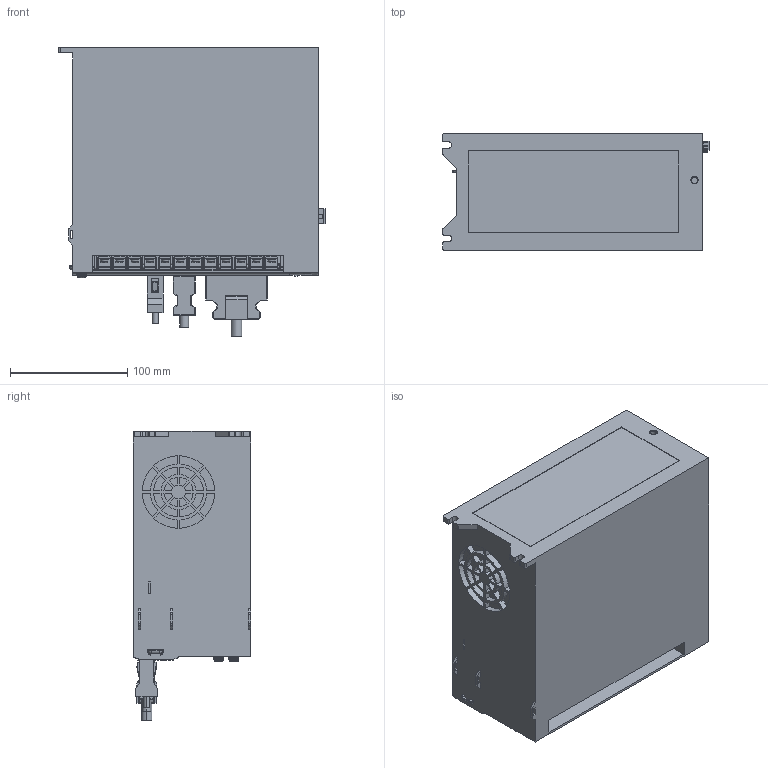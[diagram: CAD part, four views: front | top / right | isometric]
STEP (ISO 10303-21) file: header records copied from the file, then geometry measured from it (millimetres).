
FILE_DESCRIPTION (( 'STEP AP214' ), '1' );
FILE_NAME ('3KW-AP.STEP', '2022-11-02T06:07:52', ( '' ), ( '' ), 'SwSTEP 2.0', 'SolidWorks 2014', '' );
FILE_SCHEMA (( 'AUTOMOTIVE_DESIGN' ));
Length unit declared in the file: millimetre
Products named in the file (21): 3KW-AP; CON12-13-159X25P8-H_1; 控制回路端子插座-SCI-SOSCN-君昊; 3KWP; TB1300-00V-12P-C(1)_1; M4-H8; 橈勤硉晤鎢ん脣芛; STOM2X04P; STOG2X4P; jxgb1; MUF-PK10K-X
Assembly tree (11 placements, depth 3):
  3KW-AP
    3KWP
    M4-H8  x2
    STOM2X04P
    STOG2X4P
    CON12-13-159X25P8-H_1
      TB1300-00V-12P-C(1)_1
    jxgb1
    橈勤硉晤鎢ん脣芛
    控制回路端子插座-SCI-SOSCN-君昊
    MUF-PK10K-X
  3KWP
  M4-H8
  控制回路端子插座-SCI-SOSCN-君昊
  M4-H8
Bounding box: 227.5 x 100 x 247.6 mm (x, y, z)
Volume: 3548521.9 mm3; surface area: 442418 mm2
Topology: 26 solids, 26 shells, 2733 faces, 7381 edges, 4847 vertices
Faces by surface type: plane 1832, cylinder 761, torus 56, cone 40, bspline 22, sphere 22
Entity records: 101810 total; most frequent: CARTESIAN_POINT 17040, ORIENTED_EDGE 14522, DIRECTION 13958, EDGE_CURVE 7261, VECTOR 5304, LINE 5304, VERTEX_POINT 4783, AXIS2_PLACEMENT_3D 4327
